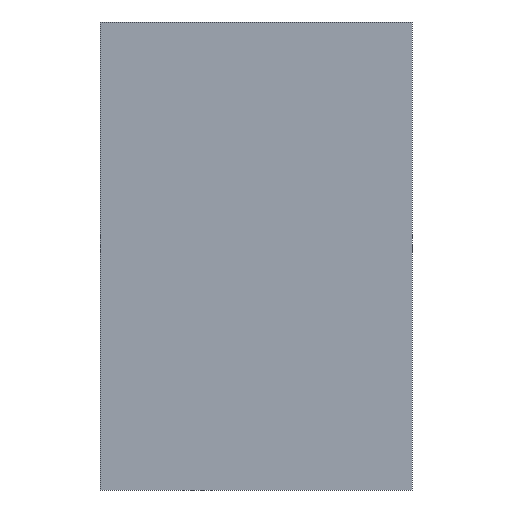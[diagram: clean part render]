
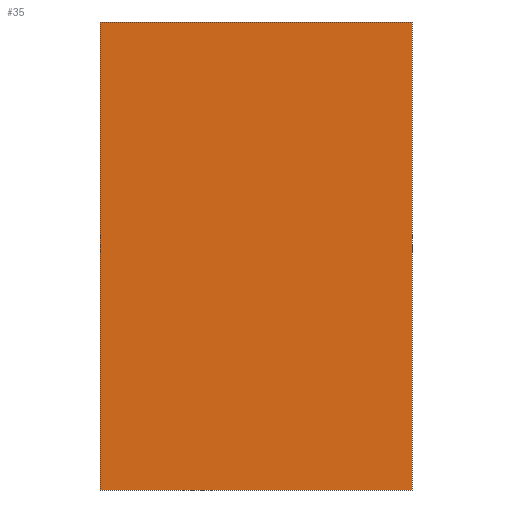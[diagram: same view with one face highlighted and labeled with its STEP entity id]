
A CAD part, left-side view. The second image highlights one B-rep face of the part: STEP entity #35.
In plain terms, the highlighted planar face has unit normal (-1, 0, 0).
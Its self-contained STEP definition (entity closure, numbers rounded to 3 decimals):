
#35 = ADVANCED_FACE('',(#36),#50,.F.);
#36 = FACE_BOUND('',#37,.F.);
#37 = EDGE_LOOP('',(#38,#73,#101,#129));
#38 = ORIENTED_EDGE('',*,*,#39,.F.);
#39 = EDGE_CURVE('',#40,#42,#44,.T.);
#40 = VERTEX_POINT('',#41);
#41 = CARTESIAN_POINT('',(-0.4,-30.,-45.));
#42 = VERTEX_POINT('',#43);
#43 = CARTESIAN_POINT('',(-0.4,-30.,45.));
#44 = SURFACE_CURVE('',#45,(#49,#61),.PCURVE_S1.);
#45 = LINE('',#46,#47);
#46 = CARTESIAN_POINT('',(-0.4,-30.,-45.));
#47 = VECTOR('',#48,1.);
#48 = DIRECTION('',(0.,0.,1.));
#49 = PCURVE('',#50,#55);
#50 = PLANE('',#51);
#51 = AXIS2_PLACEMENT_3D('',#52,#53,#54);
#52 = CARTESIAN_POINT('',(-0.4,-30.,-45.));
#53 = DIRECTION('',(1.,0.,-0.));
#54 = DIRECTION('',(0.,0.,1.));
#55 = DEFINITIONAL_REPRESENTATION('',(#56),#60);
#56 = LINE('',#57,#58);
#57 = CARTESIAN_POINT('',(0.,0.));
#58 = VECTOR('',#59,1.);
#59 = DIRECTION('',(1.,0.));
#60 = ( GEOMETRIC_REPRESENTATION_CONTEXT(2) 
PARAMETRIC_REPRESENTATION_CONTEXT() REPRESENTATION_CONTEXT('2D SPACE',''
  ) );
#61 = PCURVE('',#62,#67);
#62 = PLANE('',#63);
#63 = AXIS2_PLACEMENT_3D('',#64,#65,#66);
#64 = CARTESIAN_POINT('',(-0.4,-30.,-45.));
#65 = DIRECTION('',(-0.,1.,0.));
#66 = DIRECTION('',(0.,0.,1.));
#67 = DEFINITIONAL_REPRESENTATION('',(#68),#72);
#68 = LINE('',#69,#70);
#69 = CARTESIAN_POINT('',(0.,0.));
#70 = VECTOR('',#71,1.);
#71 = DIRECTION('',(1.,0.));
#72 = ( GEOMETRIC_REPRESENTATION_CONTEXT(2) 
PARAMETRIC_REPRESENTATION_CONTEXT() REPRESENTATION_CONTEXT('2D SPACE',''
  ) );
#73 = ORIENTED_EDGE('',*,*,#74,.T.);
#74 = EDGE_CURVE('',#40,#75,#77,.T.);
#75 = VERTEX_POINT('',#76);
#76 = CARTESIAN_POINT('',(-0.4,30.,-45.));
#77 = SURFACE_CURVE('',#78,(#82,#89),.PCURVE_S1.);
#78 = LINE('',#79,#80);
#79 = CARTESIAN_POINT('',(-0.4,-30.,-45.));
#80 = VECTOR('',#81,1.);
#81 = DIRECTION('',(-0.,1.,0.));
#82 = PCURVE('',#50,#83);
#83 = DEFINITIONAL_REPRESENTATION('',(#84),#88);
#84 = LINE('',#85,#86);
#85 = CARTESIAN_POINT('',(0.,0.));
#86 = VECTOR('',#87,1.);
#87 = DIRECTION('',(0.,-1.));
#88 = ( GEOMETRIC_REPRESENTATION_CONTEXT(2) 
PARAMETRIC_REPRESENTATION_CONTEXT() REPRESENTATION_CONTEXT('2D SPACE',''
  ) );
#89 = PCURVE('',#90,#95);
#90 = PLANE('',#91);
#91 = AXIS2_PLACEMENT_3D('',#92,#93,#94);
#92 = CARTESIAN_POINT('',(-0.4,-30.,-45.));
#93 = DIRECTION('',(0.,0.,1.));
#94 = DIRECTION('',(1.,0.,-0.));
#95 = DEFINITIONAL_REPRESENTATION('',(#96),#100);
#96 = LINE('',#97,#98);
#97 = CARTESIAN_POINT('',(0.,0.));
#98 = VECTOR('',#99,1.);
#99 = DIRECTION('',(0.,1.));
#100 = ( GEOMETRIC_REPRESENTATION_CONTEXT(2) 
PARAMETRIC_REPRESENTATION_CONTEXT() REPRESENTATION_CONTEXT('2D SPACE',''
  ) );
#101 = ORIENTED_EDGE('',*,*,#102,.T.);
#102 = EDGE_CURVE('',#75,#103,#105,.T.);
#103 = VERTEX_POINT('',#104);
#104 = CARTESIAN_POINT('',(-0.4,30.,45.));
#105 = SURFACE_CURVE('',#106,(#110,#117),.PCURVE_S1.);
#106 = LINE('',#107,#108);
#107 = CARTESIAN_POINT('',(-0.4,30.,-45.));
#108 = VECTOR('',#109,1.);
#109 = DIRECTION('',(0.,0.,1.));
#110 = PCURVE('',#50,#111);
#111 = DEFINITIONAL_REPRESENTATION('',(#112),#116);
#112 = LINE('',#113,#114);
#113 = CARTESIAN_POINT('',(0.,-60.));
#114 = VECTOR('',#115,1.);
#115 = DIRECTION('',(1.,0.));
#116 = ( GEOMETRIC_REPRESENTATION_CONTEXT(2) 
PARAMETRIC_REPRESENTATION_CONTEXT() REPRESENTATION_CONTEXT('2D SPACE',''
  ) );
#117 = PCURVE('',#118,#123);
#118 = PLANE('',#119);
#119 = AXIS2_PLACEMENT_3D('',#120,#121,#122);
#120 = CARTESIAN_POINT('',(-0.4,30.,-45.));
#121 = DIRECTION('',(-0.,1.,0.));
#122 = DIRECTION('',(0.,0.,1.));
#123 = DEFINITIONAL_REPRESENTATION('',(#124),#128);
#124 = LINE('',#125,#126);
#125 = CARTESIAN_POINT('',(0.,0.));
#126 = VECTOR('',#127,1.);
#127 = DIRECTION('',(1.,0.));
#128 = ( GEOMETRIC_REPRESENTATION_CONTEXT(2) 
PARAMETRIC_REPRESENTATION_CONTEXT() REPRESENTATION_CONTEXT('2D SPACE',''
  ) );
#129 = ORIENTED_EDGE('',*,*,#130,.F.);
#130 = EDGE_CURVE('',#42,#103,#131,.T.);
#131 = SURFACE_CURVE('',#132,(#136,#143),.PCURVE_S1.);
#132 = LINE('',#133,#134);
#133 = CARTESIAN_POINT('',(-0.4,-30.,45.));
#134 = VECTOR('',#135,1.);
#135 = DIRECTION('',(-0.,1.,0.));
#136 = PCURVE('',#50,#137);
#137 = DEFINITIONAL_REPRESENTATION('',(#138),#142);
#138 = LINE('',#139,#140);
#139 = CARTESIAN_POINT('',(90.,0.));
#140 = VECTOR('',#141,1.);
#141 = DIRECTION('',(0.,-1.));
#142 = ( GEOMETRIC_REPRESENTATION_CONTEXT(2) 
PARAMETRIC_REPRESENTATION_CONTEXT() REPRESENTATION_CONTEXT('2D SPACE',''
  ) );
#143 = PCURVE('',#144,#149);
#144 = PLANE('',#145);
#145 = AXIS2_PLACEMENT_3D('',#146,#147,#148);
#146 = CARTESIAN_POINT('',(-0.4,-30.,45.));
#147 = DIRECTION('',(0.,0.,1.));
#148 = DIRECTION('',(1.,0.,-0.));
#149 = DEFINITIONAL_REPRESENTATION('',(#150),#154);
#150 = LINE('',#151,#152);
#151 = CARTESIAN_POINT('',(0.,0.));
#152 = VECTOR('',#153,1.);
#153 = DIRECTION('',(0.,1.));
#154 = ( GEOMETRIC_REPRESENTATION_CONTEXT(2) 
PARAMETRIC_REPRESENTATION_CONTEXT() REPRESENTATION_CONTEXT('2D SPACE',''
  ) );
